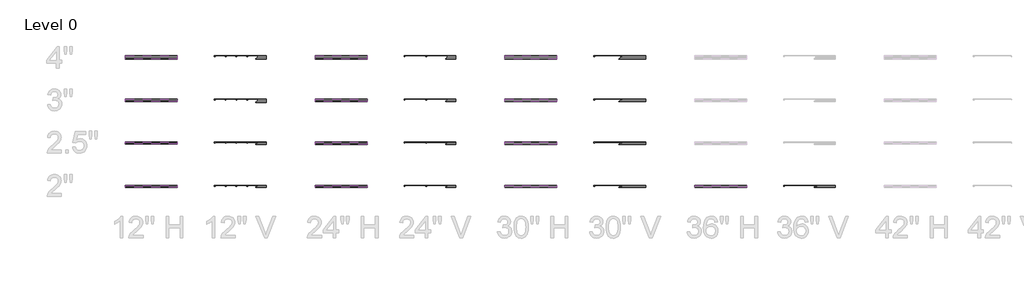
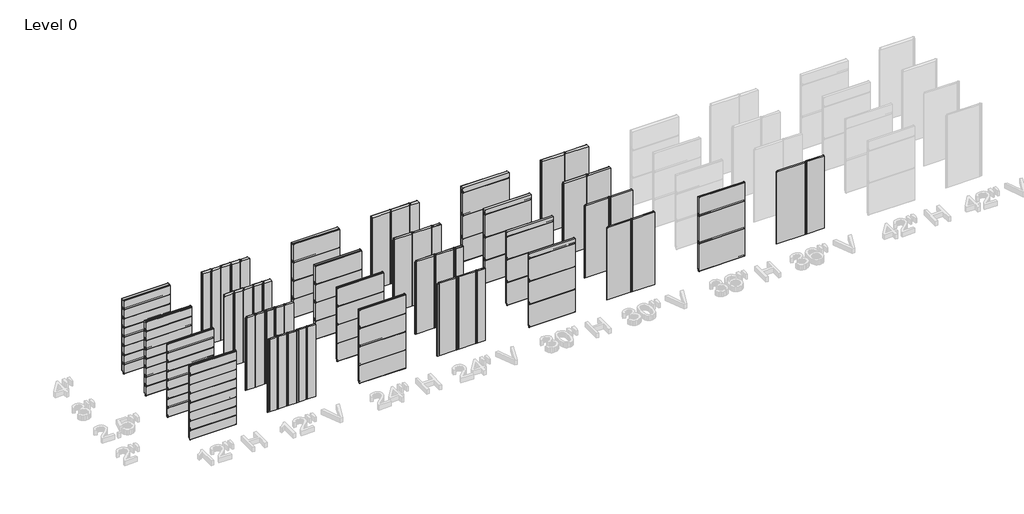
# One storey, part 1 of 5: 109 plates.
"""IFC4 building model written with IfcOpenShell, lengths in millimetres."""

from ifc_helpers import new_model, si_unit, origin, place, context, project, spatial, transform, mapped, element, save
from components import plate_d5d736a9, plate_89e84f46, plate_e7262bf4, plate_4092c8f2, plate_7f3252d8, plate_fb6e7e47, plate_fc1f2779, plate_1d96f5e6, plate_dc62b988, plate_3ba889b1, plate_b7dfedd1, plate_15d6752c, plate_9c47cac3, plate_63ff22c1, plate_e3d8686c, plate_0189f967, plate_9adf70af, plate_6caacb33, plate_a111290b, plate_7c34b83b, plate_9c1a4f24, plate_54af91b3, plate_a1647500, plate_f60e9f4d, plate_f37d1252, plate_03ad6f04, plate_646a44a0, plate_38ba23fe, plate_82fcdb9b, plate_b0db7024, plate_3a0255f0, plate_8e6019d6, plate_0934c7cf, plate_bc00b1ae, plate_81533cbf, plate_93284a91, plate_267bbc77, plate_3ce9a7e6, plate_bbc6cc8b, plate_a0bbc088, plate_d223b39a, plate_240653d1, plate_f41fd1ef, plate_e6b5dcf6, plate_e335b826, plate_40312dbb, plate_b093a8a8, plate_925c1c1f

model = new_model("IFC4")

# Units and contexts
model_context = context("Model", 3, world=origin())
ifc_project = project(units=[si_unit("LENGTHUNIT", "METRE", prefix="MILLI")], contexts=[model_context])

# Site, building, storey
site = spatial("IfcSite", under=ifc_project)
building = spatial("IfcBuilding", under=site)
storey = spatial("IfcBuildingStorey", under=building, Name="Level 0", Elevation=0.0)

# Plates
placement = place(None, origin())
plate_shape = plate_d5d736a9(model_context)
element("IfcPlate", 1, ObjectType="KIP-36-DWTR-R19-CP-Hz-F : Hz 2\"", at=placement, inside=storey, context=model_context, shape_type="MappedRepresentation", body=[
    mapped(plate_shape, transform((-13782.7250935, 10881.8207172, 0.0), x_axis=(1.0, 0.0, 0.0), y_axis=(0.0, 1.0, 0.0), z_axis=(0.0, 0.0, 1.0))),
])
element("IfcPlate", 2, ObjectType="KIP-36-DWTR-R19-CP-Hz-F : Hz 2\"", at=placement, inside=storey, context=model_context, shape_type="MappedRepresentation", body=[
    mapped(plate_shape, transform((-13782.7250935, 10881.8207172, 914.4), x_axis=(1.0, 0.0, 0.0), y_axis=(0.0, 1.0, 0.0), z_axis=(0.0, 0.0, 1.0))),
])
plate_2_shape = plate_89e84f46(model_context)
element("IfcPlate", 3, ObjectType="KIP-36-DWTR-R19-CP-Hz-F : Hz 2\"", at=placement, inside=storey, context=model_context, shape_type="MappedRepresentation", body=[
    mapped(plate_2_shape, transform((-13782.7250935, 10881.8207172, 1828.8), x_axis=(1.0, 0.0, 0.0), y_axis=(0.0, 1.0, 0.0), z_axis=(0.0, 0.0, 1.0))),
])
plate_3_shape = plate_e7262bf4(model_context)
element("IfcPlate", 4, ObjectType="KIP-30-DWTR-R19-CP-Hz-F : Hz 2\"", at=placement, inside=storey, context=model_context, shape_type="MappedRepresentation", body=[
    mapped(plate_3_shape, transform((-19116.7250935, 10881.8207172, 0.0), x_axis=(1.0, 0.0, 0.0), y_axis=(0.0, 1.0, 0.0), z_axis=(0.0, 0.0, 1.0))),
])
element("IfcPlate", 5, ObjectType="KIP-30-DWTR-R19-CP-Hz-F : Hz 2\"", at=placement, inside=storey, context=model_context, shape_type="MappedRepresentation", body=[
    mapped(plate_3_shape, transform((-19116.7250935, 10881.8207172, 762.0), x_axis=(1.0, 0.0, 0.0), y_axis=(0.0, 1.0, 0.0), z_axis=(0.0, 0.0, 1.0))),
])
element("IfcPlate", 6, ObjectType="KIP-30-DWTR-R19-CP-Hz-F : Hz 2\"", at=placement, inside=storey, context=model_context, shape_type="MappedRepresentation", body=[
    mapped(plate_3_shape, transform((-19116.7250935, 10881.8207172, 1524.0), x_axis=(1.0, 0.0, 0.0), y_axis=(0.0, 1.0, 0.0), z_axis=(0.0, 0.0, 1.0))),
])
plate_4_shape = plate_4092c8f2(model_context)
element("IfcPlate", 7, ObjectType="KIP-30-DWTR-R19-CP-Hz-F : Hz 2\"", at=placement, inside=storey, context=model_context, shape_type="MappedRepresentation", body=[
    mapped(plate_4_shape, transform((-19116.7250935, 10881.8207172, 2286.0), x_axis=(1.0, 0.0, 0.0), y_axis=(0.0, 1.0, 0.0), z_axis=(0.0, 0.0, 1.0))),
])
plate_5_shape = plate_7f3252d8(model_context)
element("IfcPlate", 8, ObjectType="KIP-24-DWTR-R19-CP-Hz-F : Hz 2\"", at=placement, inside=storey, context=model_context, shape_type="MappedRepresentation", body=[
    mapped(plate_5_shape, transform((-24450.7250935, 10881.8207172, 0.0), x_axis=(1.0, 0.0, 0.0), y_axis=(0.0, 1.0, 0.0), z_axis=(0.0, 0.0, 1.0))),
])
element("IfcPlate", 9, ObjectType="KIP-24-DWTR-R19-CP-Hz-F : Hz 2\"", at=placement, inside=storey, context=model_context, shape_type="MappedRepresentation", body=[
    mapped(plate_5_shape, transform((-24450.7250935, 10881.8207172, 609.6), x_axis=(1.0, 0.0, 0.0), y_axis=(0.0, 1.0, 0.0), z_axis=(0.0, 0.0, 1.0))),
])
element("IfcPlate", 10, ObjectType="KIP-24-DWTR-R19-CP-Hz-F : Hz 2\"", at=placement, inside=storey, context=model_context, shape_type="MappedRepresentation", body=[
    mapped(plate_5_shape, transform((-24450.7250935, 10881.8207172, 1219.2), x_axis=(1.0, 0.0, 0.0), y_axis=(0.0, 1.0, 0.0), z_axis=(0.0, 0.0, 1.0))),
])
plate_6_shape = plate_fb6e7e47(model_context)
element("IfcPlate", 11, ObjectType="KIP-24-DWTR-R19-CP-Hz-F : Hz 2\"", at=placement, inside=storey, context=model_context, shape_type="MappedRepresentation", body=[
    mapped(plate_6_shape, transform((-24450.7250935, 10881.8207172, 1828.8), x_axis=(1.0, 0.0, 0.0), y_axis=(0.0, 1.0, 0.0), z_axis=(0.0, 0.0, 1.0))),
])
plate_7_shape = plate_fc1f2779(model_context)
element("IfcPlate", 12, ObjectType="KIP-12-DWTR-R19-CP-Hz-F : Hz 2\"", at=placement, inside=storey, context=model_context, shape_type="MappedRepresentation", body=[
    mapped(plate_7_shape, transform((-29784.7250935, 10881.8207172, 0.0), x_axis=(1.0, 0.0, 0.0), y_axis=(0.0, 1.0, 0.0), z_axis=(0.0, 0.0, 1.0))),
])
element("IfcPlate", 13, ObjectType="KIP-12-DWTR-R19-CP-Hz-F : Hz 2\"", at=placement, inside=storey, context=model_context, shape_type="MappedRepresentation", body=[
    mapped(plate_7_shape, transform((-29784.7250935, 10881.8207172, 304.8), x_axis=(1.0, 0.0, 0.0), y_axis=(0.0, 1.0, 0.0), z_axis=(0.0, 0.0, 1.0))),
])
element("IfcPlate", 14, ObjectType="KIP-12-DWTR-R19-CP-Hz-F : Hz 2\"", at=placement, inside=storey, context=model_context, shape_type="MappedRepresentation", body=[
    mapped(plate_7_shape, transform((-29784.7250935, 10881.8207172, 609.6), x_axis=(1.0, 0.0, 0.0), y_axis=(0.0, 1.0, 0.0), z_axis=(0.0, 0.0, 1.0))),
])
element("IfcPlate", 15, ObjectType="KIP-12-DWTR-R19-CP-Hz-F : Hz 2\"", at=placement, inside=storey, context=model_context, shape_type="MappedRepresentation", body=[
    mapped(plate_7_shape, transform((-29784.7250935, 10881.8207172, 914.4), x_axis=(1.0, 0.0, 0.0), y_axis=(0.0, 1.0, 0.0), z_axis=(0.0, 0.0, 1.0))),
])
element("IfcPlate", 16, ObjectType="KIP-12-DWTR-R19-CP-Hz-F : Hz 2\"", at=placement, inside=storey, context=model_context, shape_type="MappedRepresentation", body=[
    mapped(plate_7_shape, transform((-29784.7250935, 10881.8207172, 1219.2), x_axis=(1.0, 0.0, 0.0), y_axis=(0.0, 1.0, 0.0), z_axis=(0.0, 0.0, 1.0))),
])
element("IfcPlate", 17, ObjectType="KIP-12-DWTR-R19-CP-Hz-F : Hz 2\"", at=placement, inside=storey, context=model_context, shape_type="MappedRepresentation", body=[
    mapped(plate_7_shape, transform((-29784.7250935, 10881.8207172, 1524.0), x_axis=(1.0, 0.0, 0.0), y_axis=(0.0, 1.0, 0.0), z_axis=(0.0, 0.0, 1.0))),
])
element("IfcPlate", 18, ObjectType="KIP-12-DWTR-R19-CP-Hz-F : Hz 2\"", at=placement, inside=storey, context=model_context, shape_type="MappedRepresentation", body=[
    mapped(plate_7_shape, transform((-29784.7250935, 10881.8207172, 1828.8), x_axis=(1.0, 0.0, 0.0), y_axis=(0.0, 1.0, 0.0), z_axis=(0.0, 0.0, 1.0))),
])
plate_8_shape = plate_1d96f5e6(model_context)
element("IfcPlate", 19, ObjectType="KIP-12-DWTR-R19-CP-Hz-F : Hz 2\"", at=placement, inside=storey, context=model_context, shape_type="MappedRepresentation", body=[
    mapped(plate_8_shape, transform((-29784.7250935, 10881.8207172, 2133.6), x_axis=(1.0, 0.0, 0.0), y_axis=(0.0, 1.0, 0.0), z_axis=(0.0, 0.0, 1.0))),
])
plate_9_shape = plate_dc62b988(model_context)
element("IfcPlate", 20, ObjectType="KIP-30-DWTR-R19-CP-Hz-F : Hz 2.5\"", at=placement, inside=storey, context=model_context, shape_type="MappedRepresentation", body=[
    mapped(plate_9_shape, transform((-19116.7250935, 12101.0207172, 0.0), x_axis=(1.0, 0.0, 0.0), y_axis=(0.0, 1.0, 0.0), z_axis=(0.0, 0.0, 1.0))),
])
element("IfcPlate", 21, ObjectType="KIP-30-DWTR-R19-CP-Hz-F : Hz 2.5\"", at=placement, inside=storey, context=model_context, shape_type="MappedRepresentation", body=[
    mapped(plate_9_shape, transform((-19116.7250935, 12101.0207172, 762.0), x_axis=(1.0, 0.0, 0.0), y_axis=(0.0, 1.0, 0.0), z_axis=(0.0, 0.0, 1.0))),
])
element("IfcPlate", 22, ObjectType="KIP-30-DWTR-R19-CP-Hz-F : Hz 2.5\"", at=placement, inside=storey, context=model_context, shape_type="MappedRepresentation", body=[
    mapped(plate_9_shape, transform((-19116.7250935, 12101.0207172, 1524.0), x_axis=(1.0, 0.0, 0.0), y_axis=(0.0, 1.0, 0.0), z_axis=(0.0, 0.0, 1.0))),
])
plate_10_shape = plate_3ba889b1(model_context)
element("IfcPlate", 23, ObjectType="KIP-30-DWTR-R19-CP-Hz-F : Hz 2.5\"", at=placement, inside=storey, context=model_context, shape_type="MappedRepresentation", body=[
    mapped(plate_10_shape, transform((-19116.7250935, 12101.0207172, 2286.0), x_axis=(1.0, 0.0, 0.0), y_axis=(0.0, 1.0, 0.0), z_axis=(0.0, 0.0, 1.0))),
])
plate_11_shape = plate_b7dfedd1(model_context)
element("IfcPlate", 24, ObjectType="KIP-24-DWTR-R19-CP-Hz-F : Hz 2.5\"", at=placement, inside=storey, context=model_context, shape_type="MappedRepresentation", body=[
    mapped(plate_11_shape, transform((-24450.7250935, 12101.0207172, 0.0), x_axis=(1.0, 0.0, 0.0), y_axis=(0.0, 1.0, 0.0), z_axis=(0.0, 0.0, 1.0))),
])
element("IfcPlate", 25, ObjectType="KIP-24-DWTR-R19-CP-Hz-F : Hz 2.5\"", at=placement, inside=storey, context=model_context, shape_type="MappedRepresentation", body=[
    mapped(plate_11_shape, transform((-24450.7250935, 12101.0207172, 609.6), x_axis=(1.0, 0.0, 0.0), y_axis=(0.0, 1.0, 0.0), z_axis=(0.0, 0.0, 1.0))),
])
element("IfcPlate", 26, ObjectType="KIP-24-DWTR-R19-CP-Hz-F : Hz 2.5\"", at=placement, inside=storey, context=model_context, shape_type="MappedRepresentation", body=[
    mapped(plate_11_shape, transform((-24450.7250935, 12101.0207172, 1219.2), x_axis=(1.0, 0.0, 0.0), y_axis=(0.0, 1.0, 0.0), z_axis=(0.0, 0.0, 1.0))),
])
plate_12_shape = plate_15d6752c(model_context)
element("IfcPlate", 27, ObjectType="KIP-24-DWTR-R19-CP-Hz-F : Hz 2.5\"", at=placement, inside=storey, context=model_context, shape_type="MappedRepresentation", body=[
    mapped(plate_12_shape, transform((-24450.7250935, 12101.0207172, 1828.8), x_axis=(1.0, 0.0, 0.0), y_axis=(0.0, 1.0, 0.0), z_axis=(0.0, 0.0, 1.0))),
])
element("IfcPlate", 28, ObjectType="KIP-12-DWTR-R19-CP-Hz-F : Hz 2.5\"", at=placement, inside=storey, context=model_context, shape_type="MappedRepresentation", body=[
    mapped(plate_7_shape, transform((-29784.7250935, 12101.0207172, 0.0), x_axis=(1.0, 0.0, 0.0), y_axis=(0.0, 1.0, 0.0), z_axis=(0.0, 0.0, 1.0))),
])
element("IfcPlate", 29, ObjectType="KIP-12-DWTR-R19-CP-Hz-F : Hz 2.5\"", at=placement, inside=storey, context=model_context, shape_type="MappedRepresentation", body=[
    mapped(plate_7_shape, transform((-29784.7250935, 12101.0207172, 304.8), x_axis=(1.0, 0.0, 0.0), y_axis=(0.0, 1.0, 0.0), z_axis=(0.0, 0.0, 1.0))),
])
element("IfcPlate", 30, ObjectType="KIP-12-DWTR-R19-CP-Hz-F : Hz 2.5\"", at=placement, inside=storey, context=model_context, shape_type="MappedRepresentation", body=[
    mapped(plate_7_shape, transform((-29784.7250935, 12101.0207172, 609.6), x_axis=(1.0, 0.0, 0.0), y_axis=(0.0, 1.0, 0.0), z_axis=(0.0, 0.0, 1.0))),
])
element("IfcPlate", 31, ObjectType="KIP-12-DWTR-R19-CP-Hz-F : Hz 2.5\"", at=placement, inside=storey, context=model_context, shape_type="MappedRepresentation", body=[
    mapped(plate_7_shape, transform((-29784.7250935, 12101.0207172, 914.4), x_axis=(1.0, 0.0, 0.0), y_axis=(0.0, 1.0, 0.0), z_axis=(0.0, 0.0, 1.0))),
])
element("IfcPlate", 32, ObjectType="KIP-12-DWTR-R19-CP-Hz-F : Hz 2.5\"", at=placement, inside=storey, context=model_context, shape_type="MappedRepresentation", body=[
    mapped(plate_7_shape, transform((-29784.7250935, 12101.0207172, 1219.2), x_axis=(1.0, 0.0, 0.0), y_axis=(0.0, 1.0, 0.0), z_axis=(0.0, 0.0, 1.0))),
])
element("IfcPlate", 33, ObjectType="KIP-12-DWTR-R19-CP-Hz-F : Hz 2.5\"", at=placement, inside=storey, context=model_context, shape_type="MappedRepresentation", body=[
    mapped(plate_7_shape, transform((-29784.7250935, 12101.0207172, 1524.0), x_axis=(1.0, 0.0, 0.0), y_axis=(0.0, 1.0, 0.0), z_axis=(0.0, 0.0, 1.0))),
])
element("IfcPlate", 34, ObjectType="KIP-12-DWTR-R19-CP-Hz-F : Hz 2.5\"", at=placement, inside=storey, context=model_context, shape_type="MappedRepresentation", body=[
    mapped(plate_7_shape, transform((-29784.7250935, 12101.0207172, 1828.8), x_axis=(1.0, 0.0, 0.0), y_axis=(0.0, 1.0, 0.0), z_axis=(0.0, 0.0, 1.0))),
])
element("IfcPlate", 35, ObjectType="KIP-12-DWTR-R19-CP-Hz-F : Hz 2.5\"", at=placement, inside=storey, context=model_context, shape_type="MappedRepresentation", body=[
    mapped(plate_8_shape, transform((-29784.7250935, 12101.0207172, 2133.6), x_axis=(1.0, 0.0, 0.0), y_axis=(0.0, 1.0, 0.0), z_axis=(0.0, 0.0, 1.0))),
])
plate_13_shape = plate_9c47cac3(model_context)
element("IfcPlate", 36, ObjectType="KIP-30-DWTR-R19-CP-Hz-F : Hz 3\"", at=placement, inside=storey, context=model_context, shape_type="MappedRepresentation", body=[
    mapped(plate_13_shape, transform((-19116.7250935, 13320.2207172, 0.0), x_axis=(1.0, 0.0, 0.0), y_axis=(0.0, 1.0, 0.0), z_axis=(0.0, 0.0, 1.0))),
])
element("IfcPlate", 37, ObjectType="KIP-30-DWTR-R19-CP-Hz-F : Hz 3\"", at=placement, inside=storey, context=model_context, shape_type="MappedRepresentation", body=[
    mapped(plate_13_shape, transform((-19116.7250935, 13320.2207172, 762.0), x_axis=(1.0, 0.0, 0.0), y_axis=(0.0, 1.0, 0.0), z_axis=(0.0, 0.0, 1.0))),
])
element("IfcPlate", 38, ObjectType="KIP-30-DWTR-R19-CP-Hz-F : Hz 3\"", at=placement, inside=storey, context=model_context, shape_type="MappedRepresentation", body=[
    mapped(plate_13_shape, transform((-19116.7250935, 13320.2207172, 1524.0), x_axis=(1.0, 0.0, 0.0), y_axis=(0.0, 1.0, 0.0), z_axis=(0.0, 0.0, 1.0))),
])
plate_14_shape = plate_63ff22c1(model_context)
element("IfcPlate", 39, ObjectType="KIP-30-DWTR-R19-CP-Hz-F : Hz 3\"", at=placement, inside=storey, context=model_context, shape_type="MappedRepresentation", body=[
    mapped(plate_14_shape, transform((-19116.7250935, 13320.2207172, 2286.0), x_axis=(1.0, 0.0, 0.0), y_axis=(0.0, 1.0, 0.0), z_axis=(0.0, 0.0, 1.0))),
])
plate_15_shape = plate_e3d8686c(model_context)
element("IfcPlate", 40, ObjectType="KIP-24-DWTR-R19-CP-Hz-F : Hz 3\"", at=placement, inside=storey, context=model_context, shape_type="MappedRepresentation", body=[
    mapped(plate_15_shape, transform((-24450.7250935, 13320.2207172, 0.0), x_axis=(1.0, 0.0, 0.0), y_axis=(0.0, 1.0, 0.0), z_axis=(0.0, 0.0, 1.0))),
])
element("IfcPlate", 41, ObjectType="KIP-24-DWTR-R19-CP-Hz-F : Hz 3\"", at=placement, inside=storey, context=model_context, shape_type="MappedRepresentation", body=[
    mapped(plate_15_shape, transform((-24450.7250935, 13320.2207172, 609.6), x_axis=(1.0, 0.0, 0.0), y_axis=(0.0, 1.0, 0.0), z_axis=(0.0, 0.0, 1.0))),
])
element("IfcPlate", 42, ObjectType="KIP-24-DWTR-R19-CP-Hz-F : Hz 3\"", at=placement, inside=storey, context=model_context, shape_type="MappedRepresentation", body=[
    mapped(plate_15_shape, transform((-24450.7250935, 13320.2207172, 1219.2), x_axis=(1.0, 0.0, 0.0), y_axis=(0.0, 1.0, 0.0), z_axis=(0.0, 0.0, 1.0))),
])
plate_16_shape = plate_0189f967(model_context)
element("IfcPlate", 43, ObjectType="KIP-24-DWTR-R19-CP-Hz-F : Hz 3\"", at=placement, inside=storey, context=model_context, shape_type="MappedRepresentation", body=[
    mapped(plate_16_shape, transform((-24450.7250935, 13320.2207172, 1828.8), x_axis=(1.0, 0.0, 0.0), y_axis=(0.0, 1.0, 0.0), z_axis=(0.0, 0.0, 1.0))),
])
plate_17_shape = plate_9adf70af(model_context)
element("IfcPlate", 44, ObjectType="KIP-12-DWTR-R19-CP-Hz-F : Hz 3\"", at=placement, inside=storey, context=model_context, shape_type="MappedRepresentation", body=[
    mapped(plate_17_shape, transform((-29784.7250935, 13320.2207172, 0.0), x_axis=(1.0, 0.0, 0.0), y_axis=(0.0, 1.0, 0.0), z_axis=(0.0, 0.0, 1.0))),
])
element("IfcPlate", 45, ObjectType="KIP-12-DWTR-R19-CP-Hz-F : Hz 3\"", at=placement, inside=storey, context=model_context, shape_type="MappedRepresentation", body=[
    mapped(plate_17_shape, transform((-29784.7250935, 13320.2207172, 304.8), x_axis=(1.0, 0.0, 0.0), y_axis=(0.0, 1.0, 0.0), z_axis=(0.0, 0.0, 1.0))),
])
element("IfcPlate", 46, ObjectType="KIP-12-DWTR-R19-CP-Hz-F : Hz 3\"", at=placement, inside=storey, context=model_context, shape_type="MappedRepresentation", body=[
    mapped(plate_17_shape, transform((-29784.7250935, 13320.2207172, 609.6), x_axis=(1.0, 0.0, 0.0), y_axis=(0.0, 1.0, 0.0), z_axis=(0.0, 0.0, 1.0))),
])
element("IfcPlate", 47, ObjectType="KIP-12-DWTR-R19-CP-Hz-F : Hz 3\"", at=placement, inside=storey, context=model_context, shape_type="MappedRepresentation", body=[
    mapped(plate_17_shape, transform((-29784.7250935, 13320.2207172, 914.4), x_axis=(1.0, 0.0, 0.0), y_axis=(0.0, 1.0, 0.0), z_axis=(0.0, 0.0, 1.0))),
])
element("IfcPlate", 48, ObjectType="KIP-12-DWTR-R19-CP-Hz-F : Hz 3\"", at=placement, inside=storey, context=model_context, shape_type="MappedRepresentation", body=[
    mapped(plate_17_shape, transform((-29784.7250935, 13320.2207172, 1219.2), x_axis=(1.0, 0.0, 0.0), y_axis=(0.0, 1.0, 0.0), z_axis=(0.0, 0.0, 1.0))),
])
element("IfcPlate", 49, ObjectType="KIP-12-DWTR-R19-CP-Hz-F : Hz 3\"", at=placement, inside=storey, context=model_context, shape_type="MappedRepresentation", body=[
    mapped(plate_17_shape, transform((-29784.7250935, 13320.2207172, 1524.0), x_axis=(1.0, 0.0, 0.0), y_axis=(0.0, 1.0, 0.0), z_axis=(0.0, 0.0, 1.0))),
])
element("IfcPlate", 50, ObjectType="KIP-12-DWTR-R19-CP-Hz-F : Hz 3\"", at=placement, inside=storey, context=model_context, shape_type="MappedRepresentation", body=[
    mapped(plate_17_shape, transform((-29784.7250935, 13320.2207172, 1828.8), x_axis=(1.0, 0.0, 0.0), y_axis=(0.0, 1.0, 0.0), z_axis=(0.0, 0.0, 1.0))),
])
plate_18_shape = plate_6caacb33(model_context)
element("IfcPlate", 51, ObjectType="KIP-12-DWTR-R19-CP-Hz-F : Hz 3\"", at=placement, inside=storey, context=model_context, shape_type="MappedRepresentation", body=[
    mapped(plate_18_shape, transform((-29784.7250935, 13320.2207172, 2133.6), x_axis=(1.0, 0.0, 0.0), y_axis=(0.0, 1.0, 0.0), z_axis=(0.0, 0.0, 1.0))),
])
plate_19_shape = plate_a111290b(model_context)
element("IfcPlate", 52, ObjectType="KIP-30-DWTR-R19-CP-Hz-F : Hz 4\"", at=placement, inside=storey, context=model_context, shape_type="MappedRepresentation", body=[
    mapped(plate_19_shape, transform((-19116.7250935, 14539.4207172, 0.0), x_axis=(1.0, 0.0, 0.0), y_axis=(0.0, 1.0, 0.0), z_axis=(0.0, 0.0, 1.0))),
])
element("IfcPlate", 53, ObjectType="KIP-30-DWTR-R19-CP-Hz-F : Hz 4\"", at=placement, inside=storey, context=model_context, shape_type="MappedRepresentation", body=[
    mapped(plate_19_shape, transform((-19116.7250935, 14539.4207172, 762.0), x_axis=(1.0, 0.0, 0.0), y_axis=(0.0, 1.0, 0.0), z_axis=(0.0, 0.0, 1.0))),
])
element("IfcPlate", 54, ObjectType="KIP-30-DWTR-R19-CP-Hz-F : Hz 4\"", at=placement, inside=storey, context=model_context, shape_type="MappedRepresentation", body=[
    mapped(plate_19_shape, transform((-19116.7250935, 14539.4207172, 1524.0), x_axis=(1.0, 0.0, 0.0), y_axis=(0.0, 1.0, 0.0), z_axis=(0.0, 0.0, 1.0))),
])
plate_20_shape = plate_7c34b83b(model_context)
element("IfcPlate", 55, ObjectType="KIP-30-DWTR-R19-CP-Hz-F : Hz 4\"", at=placement, inside=storey, context=model_context, shape_type="MappedRepresentation", body=[
    mapped(plate_20_shape, transform((-19116.7250935, 14539.4207172, 2286.0), x_axis=(1.0, 0.0, 0.0), y_axis=(0.0, 1.0, 0.0), z_axis=(0.0, 0.0, 1.0))),
])
plate_21_shape = plate_9c1a4f24(model_context)
element("IfcPlate", 56, ObjectType="KIP-24-DWTR-R19-CP-Hz-F : Hz 4\"", at=placement, inside=storey, context=model_context, shape_type="MappedRepresentation", body=[
    mapped(plate_21_shape, transform((-24450.7250935, 14539.4207172, 0.0), x_axis=(1.0, 0.0, 0.0), y_axis=(0.0, 1.0, 0.0), z_axis=(0.0, 0.0, 1.0))),
])
element("IfcPlate", 57, ObjectType="KIP-24-DWTR-R19-CP-Hz-F : Hz 4\"", at=placement, inside=storey, context=model_context, shape_type="MappedRepresentation", body=[
    mapped(plate_21_shape, transform((-24450.7250935, 14539.4207172, 609.6), x_axis=(1.0, 0.0, 0.0), y_axis=(0.0, 1.0, 0.0), z_axis=(0.0, 0.0, 1.0))),
])
element("IfcPlate", 58, ObjectType="KIP-24-DWTR-R19-CP-Hz-F : Hz 4\"", at=placement, inside=storey, context=model_context, shape_type="MappedRepresentation", body=[
    mapped(plate_21_shape, transform((-24450.7250935, 14539.4207172, 1219.2), x_axis=(1.0, 0.0, 0.0), y_axis=(0.0, 1.0, 0.0), z_axis=(0.0, 0.0, 1.0))),
])
plate_22_shape = plate_54af91b3(model_context)
element("IfcPlate", 59, ObjectType="KIP-24-DWTR-R19-CP-Hz-F : Hz 4\"", at=placement, inside=storey, context=model_context, shape_type="MappedRepresentation", body=[
    mapped(plate_22_shape, transform((-24450.7250935, 14539.4207172, 1828.8), x_axis=(1.0, 0.0, 0.0), y_axis=(0.0, 1.0, 0.0), z_axis=(0.0, 0.0, 1.0))),
])
plate_23_shape = plate_a1647500(model_context)
element("IfcPlate", 60, ObjectType="KIP-12-DWTR-R19-CP-Hz-F : Hz 4\"", at=placement, inside=storey, context=model_context, shape_type="MappedRepresentation", body=[
    mapped(plate_23_shape, transform((-29784.7250935, 14539.4207172, 0.0), x_axis=(1.0, 0.0, 0.0), y_axis=(0.0, 1.0, 0.0), z_axis=(0.0, 0.0, 1.0))),
])
element("IfcPlate", 61, ObjectType="KIP-12-DWTR-R19-CP-Hz-F : Hz 4\"", at=placement, inside=storey, context=model_context, shape_type="MappedRepresentation", body=[
    mapped(plate_23_shape, transform((-29784.7250935, 14539.4207172, 304.8), x_axis=(1.0, 0.0, 0.0), y_axis=(0.0, 1.0, 0.0), z_axis=(0.0, 0.0, 1.0))),
])
element("IfcPlate", 62, ObjectType="KIP-12-DWTR-R19-CP-Hz-F : Hz 4\"", at=placement, inside=storey, context=model_context, shape_type="MappedRepresentation", body=[
    mapped(plate_23_shape, transform((-29784.7250935, 14539.4207172, 609.6), x_axis=(1.0, 0.0, 0.0), y_axis=(0.0, 1.0, 0.0), z_axis=(0.0, 0.0, 1.0))),
])
element("IfcPlate", 63, ObjectType="KIP-12-DWTR-R19-CP-Hz-F : Hz 4\"", at=placement, inside=storey, context=model_context, shape_type="MappedRepresentation", body=[
    mapped(plate_23_shape, transform((-29784.7250935, 14539.4207172, 914.4), x_axis=(1.0, 0.0, 0.0), y_axis=(0.0, 1.0, 0.0), z_axis=(0.0, 0.0, 1.0))),
])
element("IfcPlate", 64, ObjectType="KIP-12-DWTR-R19-CP-Hz-F : Hz 4\"", at=placement, inside=storey, context=model_context, shape_type="MappedRepresentation", body=[
    mapped(plate_23_shape, transform((-29784.7250935, 14539.4207172, 1219.2), x_axis=(1.0, 0.0, 0.0), y_axis=(0.0, 1.0, 0.0), z_axis=(0.0, 0.0, 1.0))),
])
element("IfcPlate", 65, ObjectType="KIP-12-DWTR-R19-CP-Hz-F : Hz 4\"", at=placement, inside=storey, context=model_context, shape_type="MappedRepresentation", body=[
    mapped(plate_23_shape, transform((-29784.7250935, 14539.4207172, 1524.0), x_axis=(1.0, 0.0, 0.0), y_axis=(0.0, 1.0, 0.0), z_axis=(0.0, 0.0, 1.0))),
])
element("IfcPlate", 66, ObjectType="KIP-12-DWTR-R19-CP-Hz-F : Hz 4\"", at=placement, inside=storey, context=model_context, shape_type="MappedRepresentation", body=[
    mapped(plate_23_shape, transform((-29784.7250935, 14539.4207172, 1828.8), x_axis=(1.0, 0.0, 0.0), y_axis=(0.0, 1.0, 0.0), z_axis=(0.0, 0.0, 1.0))),
])
plate_24_shape = plate_f60e9f4d(model_context)
element("IfcPlate", 67, ObjectType="KIP-12-DWTR-R19-CP-Hz-F : Hz 4\"", at=placement, inside=storey, context=model_context, shape_type="MappedRepresentation", body=[
    mapped(plate_24_shape, transform((-29784.7250935, 14539.4207172, 2133.6), x_axis=(1.0, 0.0, 0.0), y_axis=(0.0, 1.0, 0.0), z_axis=(0.0, 0.0, 1.0))),
])
plate_25_shape = plate_f37d1252(model_context)
element("IfcPlate", 68, ObjectType="KIP-36-DWTR-R19-CP-Vt-F : Vt 2\"", at=placement, inside=storey, context=model_context, shape_type="MappedRepresentation", body=[
    mapped(plate_25_shape, transform((-11555.7413834, 10881.8207172, 0.0), x_axis=(1.0, 0.0, 0.0), y_axis=(0.0, 1.0, 0.0), z_axis=(0.0, 0.0, 1.0))),
])
plate_26_shape = plate_03ad6f04(model_context)
element("IfcPlate", 69, ObjectType="KIP-36-DWTR-R19-CP-Vt-F : Vt 2\"", at=placement, inside=storey, context=model_context, shape_type="MappedRepresentation", body=[
    mapped(plate_26_shape, transform((-10825.7413834, 10881.8207172, 0.0), x_axis=(1.0, 0.0, 0.0), y_axis=(0.0, 1.0, 0.0), z_axis=(0.0, 0.0, 1.0))),
])
plate_27_shape = plate_646a44a0(model_context)
element("IfcPlate", 70, ObjectType="KIP-30-DWTR-R19-CP-Vt-F : Vt 2\"", at=placement, inside=storey, context=model_context, shape_type="MappedRepresentation", body=[
    mapped(plate_27_shape, transform((-16965.9413834, 10881.8207172, 0.0), x_axis=(1.0, 0.0, 0.0), y_axis=(0.0, 1.0, 0.0), z_axis=(0.0, 0.0, 1.0))),
])
plate_28_shape = plate_38ba23fe(model_context)
element("IfcPlate", 71, ObjectType="KIP-30-DWTR-R19-CP-Vt-F : Vt 2\"", at=placement, inside=storey, context=model_context, shape_type="MappedRepresentation", body=[
    mapped(plate_28_shape, transform((-16235.9413834, 10881.8207172, 0.0), x_axis=(1.0, 0.0, 0.0), y_axis=(0.0, 1.0, 0.0), z_axis=(0.0, 0.0, 1.0))),
])
plate_29_shape = plate_82fcdb9b(model_context)
element("IfcPlate", 72, ObjectType="KIP-24-DWTR-R19-CP-Vt-F : Vt 2\"", at=placement, inside=storey, context=model_context, shape_type="MappedRepresentation", body=[
    mapped(plate_29_shape, transform((-22376.1413834, 10881.8207172, 0.0), x_axis=(1.0, 0.0, 0.0), y_axis=(0.0, 1.0, 0.0), z_axis=(0.0, 0.0, 1.0))),
])
element("IfcPlate", 73, ObjectType="KIP-24-DWTR-R19-CP-Vt-F : Vt 2\"", at=placement, inside=storey, context=model_context, shape_type="MappedRepresentation", body=[
    mapped(plate_29_shape, transform((-21766.5413833, 10881.8207172, 0.0), x_axis=(1.0, 0.0, 0.0), y_axis=(0.0, 1.0, 0.0), z_axis=(0.0, 0.0, 1.0))),
])
plate_30_shape = plate_b0db7024(model_context)
element("IfcPlate", 74, ObjectType="KIP-24-DWTR-R19-CP-Vt-F : Vt 2\"", at=placement, inside=storey, context=model_context, shape_type="MappedRepresentation", body=[
    mapped(plate_30_shape, transform((-21341.3413834, 10881.8207172, 0.0), x_axis=(1.0, 0.0, 0.0), y_axis=(0.0, 1.0, 0.0), z_axis=(0.0, 0.0, 1.0))),
])
plate_31_shape = plate_3a0255f0(model_context)
element("IfcPlate", 75, ObjectType="KIP-12-DWTR-R19-CP-Vt-F : Vt 2\"", at=placement, inside=storey, context=model_context, shape_type="MappedRepresentation", body=[
    mapped(plate_31_shape, transform((-27862.5413834, 10881.8207172, 0.0), x_axis=(1.0, 0.0, 0.0), y_axis=(0.0, 1.0, 0.0), z_axis=(0.0, 0.0, 1.0))),
])
element("IfcPlate", 76, ObjectType="KIP-12-DWTR-R19-CP-Vt-F : Vt 2\"", at=placement, inside=storey, context=model_context, shape_type="MappedRepresentation", body=[
    mapped(plate_31_shape, transform((-26948.1413833, 10881.8207172, 0.0), x_axis=(1.0, 0.0, 0.0), y_axis=(0.0, 1.0, 0.0), z_axis=(0.0, 0.0, 1.0))),
])
element("IfcPlate", 77, ObjectType="KIP-12-DWTR-R19-CP-Vt-F : Vt 2\"", at=placement, inside=storey, context=model_context, shape_type="MappedRepresentation", body=[
    mapped(plate_31_shape, transform((-27252.9413833, 10881.8207172, 0.0), x_axis=(1.0, 0.0, 0.0), y_axis=(0.0, 1.0, 0.0), z_axis=(0.0, 0.0, 1.0))),
])
element("IfcPlate", 78, ObjectType="KIP-12-DWTR-R19-CP-Vt-F : Vt 2\"", at=placement, inside=storey, context=model_context, shape_type="MappedRepresentation", body=[
    mapped(plate_31_shape, transform((-27557.7413833, 10881.8207172, 0.0), x_axis=(1.0, 0.0, 0.0), y_axis=(0.0, 1.0, 0.0), z_axis=(0.0, 0.0, 1.0))),
])
plate_32_shape = plate_8e6019d6(model_context)
element("IfcPlate", 79, ObjectType="KIP-12-DWTR-R19-CP-Vt-F : Vt 2\"", at=placement, inside=storey, context=model_context, shape_type="MappedRepresentation", body=[
    mapped(plate_32_shape, transform((-26675.3413834, 10881.8207172, 0.0), x_axis=(1.0, 0.0, 0.0), y_axis=(0.0, 1.0, 0.0), z_axis=(0.0, 0.0, 1.0))),
])
plate_33_shape = plate_0934c7cf(model_context)
element("IfcPlate", 80, ObjectType="KIP-30-DWTR-R19-CP-Vt-F : Vt 2.5\"", at=placement, inside=storey, context=model_context, shape_type="MappedRepresentation", body=[
    mapped(plate_33_shape, transform((-16965.9413834, 12101.0207172, 0.0), x_axis=(1.0, 0.0, 0.0), y_axis=(0.0, 1.0, 0.0), z_axis=(0.0, 0.0, 1.0))),
])
plate_34_shape = plate_bc00b1ae(model_context)
element("IfcPlate", 81, ObjectType="KIP-30-DWTR-R19-CP-Vt-F : Vt 2.5\"", at=placement, inside=storey, context=model_context, shape_type="MappedRepresentation", body=[
    mapped(plate_34_shape, transform((-16235.9413834, 12101.0207172, 0.0), x_axis=(1.0, 0.0, 0.0), y_axis=(0.0, 1.0, 0.0), z_axis=(0.0, 0.0, 1.0))),
])
plate_35_shape = plate_81533cbf(model_context)
element("IfcPlate", 82, ObjectType="KIP-24-DWTR-R19-CP-Vt-F : Vt 2.5\"", at=placement, inside=storey, context=model_context, shape_type="MappedRepresentation", body=[
    mapped(plate_35_shape, transform((-22376.1413834, 12101.0207172, 0.0), x_axis=(1.0, 0.0, 0.0), y_axis=(0.0, 1.0, 0.0), z_axis=(0.0, 0.0, 1.0))),
])
element("IfcPlate", 83, ObjectType="KIP-24-DWTR-R19-CP-Vt-F : Vt 2.5\"", at=placement, inside=storey, context=model_context, shape_type="MappedRepresentation", body=[
    mapped(plate_35_shape, transform((-21766.5413833, 12101.0207172, 0.0), x_axis=(1.0, 0.0, 0.0), y_axis=(0.0, 1.0, 0.0), z_axis=(0.0, 0.0, 1.0))),
])
plate_36_shape = plate_93284a91(model_context)
element("IfcPlate", 84, ObjectType="KIP-24-DWTR-R19-CP-Vt-F : Vt 2.5\"", at=placement, inside=storey, context=model_context, shape_type="MappedRepresentation", body=[
    mapped(plate_36_shape, transform((-21341.3413834, 12101.0207172, 0.0), x_axis=(1.0, 0.0, 0.0), y_axis=(0.0, 1.0, 0.0), z_axis=(0.0, 0.0, 1.0))),
])
plate_37_shape = plate_267bbc77(model_context)
element("IfcPlate", 85, ObjectType="KIP-12-DWTR-R19-CP-Vt-F : Vt 2.5\"", at=placement, inside=storey, context=model_context, shape_type="MappedRepresentation", body=[
    mapped(plate_37_shape, transform((-27862.5413834, 12101.0207172, 0.0), x_axis=(1.0, 0.0, 0.0), y_axis=(0.0, 1.0, 0.0), z_axis=(0.0, 0.0, 1.0))),
])
element("IfcPlate", 86, ObjectType="KIP-12-DWTR-R19-CP-Vt-F : Vt 2.5\"", at=placement, inside=storey, context=model_context, shape_type="MappedRepresentation", body=[
    mapped(plate_37_shape, transform((-26948.1413833, 12101.0207172, 0.0), x_axis=(1.0, 0.0, 0.0), y_axis=(0.0, 1.0, 0.0), z_axis=(0.0, 0.0, 1.0))),
])
element("IfcPlate", 87, ObjectType="KIP-12-DWTR-R19-CP-Vt-F : Vt 2.5\"", at=placement, inside=storey, context=model_context, shape_type="MappedRepresentation", body=[
    mapped(plate_37_shape, transform((-27252.9413833, 12101.0207172, 0.0), x_axis=(1.0, 0.0, 0.0), y_axis=(0.0, 1.0, 0.0), z_axis=(0.0, 0.0, 1.0))),
])
element("IfcPlate", 88, ObjectType="KIP-12-DWTR-R19-CP-Vt-F : Vt 2.5\"", at=placement, inside=storey, context=model_context, shape_type="MappedRepresentation", body=[
    mapped(plate_37_shape, transform((-27557.7413833, 12101.0207172, 0.0), x_axis=(1.0, 0.0, 0.0), y_axis=(0.0, 1.0, 0.0), z_axis=(0.0, 0.0, 1.0))),
])
plate_38_shape = plate_3ce9a7e6(model_context)
element("IfcPlate", 89, ObjectType="KIP-12-DWTR-R19-CP-Vt-F : Vt 2.5\"", at=placement, inside=storey, context=model_context, shape_type="MappedRepresentation", body=[
    mapped(plate_38_shape, transform((-26675.3413834, 12101.0207172, 0.0), x_axis=(1.0, 0.0, 0.0), y_axis=(0.0, 1.0, 0.0), z_axis=(0.0, 0.0, 1.0))),
])
plate_39_shape = plate_bbc6cc8b(model_context)
element("IfcPlate", 90, ObjectType="KIP-30-DWTR-R19-CP-Vt-F : Vt 3\"", at=placement, inside=storey, context=model_context, shape_type="MappedRepresentation", body=[
    mapped(plate_39_shape, transform((-16965.9413834, 13320.2207172, 0.0), x_axis=(1.0, 0.0, 0.0), y_axis=(0.0, 1.0, 0.0), z_axis=(0.0, 0.0, 1.0))),
])
plate_40_shape = plate_a0bbc088(model_context)
element("IfcPlate", 91, ObjectType="KIP-30-DWTR-R19-CP-Vt-F : Vt 3\"", at=placement, inside=storey, context=model_context, shape_type="MappedRepresentation", body=[
    mapped(plate_40_shape, transform((-16235.9413834, 13320.2207172, 0.0), x_axis=(1.0, 0.0, 0.0), y_axis=(0.0, 1.0, 0.0), z_axis=(0.0, 0.0, 1.0))),
])
plate_41_shape = plate_d223b39a(model_context)
element("IfcPlate", 92, ObjectType="KIP-24-DWTR-R19-CP-Vt-F : Vt 3\"", at=placement, inside=storey, context=model_context, shape_type="MappedRepresentation", body=[
    mapped(plate_41_shape, transform((-22376.1413834, 13320.2207172, 0.0), x_axis=(1.0, 0.0, 0.0), y_axis=(0.0, 1.0, 0.0), z_axis=(0.0, 0.0, 1.0))),
])
element("IfcPlate", 93, ObjectType="KIP-24-DWTR-R19-CP-Vt-F : Vt 3\"", at=placement, inside=storey, context=model_context, shape_type="MappedRepresentation", body=[
    mapped(plate_41_shape, transform((-21766.5413833, 13320.2207172, 0.0), x_axis=(1.0, 0.0, 0.0), y_axis=(0.0, 1.0, 0.0), z_axis=(0.0, 0.0, 1.0))),
])
plate_42_shape = plate_240653d1(model_context)
element("IfcPlate", 94, ObjectType="KIP-24-DWTR-R19-CP-Vt-F : Vt 3\"", at=placement, inside=storey, context=model_context, shape_type="MappedRepresentation", body=[
    mapped(plate_42_shape, transform((-21341.3413834, 13320.2207172, 0.0), x_axis=(1.0, 0.0, 0.0), y_axis=(0.0, 1.0, 0.0), z_axis=(0.0, 0.0, 1.0))),
])
plate_43_shape = plate_f41fd1ef(model_context)
element("IfcPlate", 95, ObjectType="KIP-12-DWTR-R19-CP-Vt-F : Vt 3\"", at=placement, inside=storey, context=model_context, shape_type="MappedRepresentation", body=[
    mapped(plate_43_shape, transform((-27862.5413834, 13320.2207172, 0.0), x_axis=(1.0, 0.0, 0.0), y_axis=(0.0, 1.0, 0.0), z_axis=(0.0, 0.0, 1.0))),
])
element("IfcPlate", 96, ObjectType="KIP-12-DWTR-R19-CP-Vt-F : Vt 3\"", at=placement, inside=storey, context=model_context, shape_type="MappedRepresentation", body=[
    mapped(plate_43_shape, transform((-26948.1413833, 13320.2207172, 0.0), x_axis=(1.0, 0.0, 0.0), y_axis=(0.0, 1.0, 0.0), z_axis=(0.0, 0.0, 1.0))),
])
element("IfcPlate", 97, ObjectType="KIP-12-DWTR-R19-CP-Vt-F : Vt 3\"", at=placement, inside=storey, context=model_context, shape_type="MappedRepresentation", body=[
    mapped(plate_43_shape, transform((-27252.9413833, 13320.2207172, 0.0), x_axis=(1.0, 0.0, 0.0), y_axis=(0.0, 1.0, 0.0), z_axis=(0.0, 0.0, 1.0))),
])
element("IfcPlate", 98, ObjectType="KIP-12-DWTR-R19-CP-Vt-F : Vt 3\"", at=placement, inside=storey, context=model_context, shape_type="MappedRepresentation", body=[
    mapped(plate_43_shape, transform((-27557.7413833, 13320.2207172, 0.0), x_axis=(1.0, 0.0, 0.0), y_axis=(0.0, 1.0, 0.0), z_axis=(0.0, 0.0, 1.0))),
])
plate_44_shape = plate_e6b5dcf6(model_context)
element("IfcPlate", 99, ObjectType="KIP-12-DWTR-R19-CP-Vt-F : Vt 3\"", at=placement, inside=storey, context=model_context, shape_type="MappedRepresentation", body=[
    mapped(plate_44_shape, transform((-26675.3413834, 13320.2207172, 0.0), x_axis=(1.0, 0.0, 0.0), y_axis=(0.0, 1.0, 0.0), z_axis=(0.0, 0.0, 1.0))),
])
plate_45_shape = plate_e335b826(model_context)
element("IfcPlate", 100, ObjectType="KIP-30-DWTR-R19-CP-Vt-F : Vt 4\"", at=placement, inside=storey, context=model_context, shape_type="MappedRepresentation", body=[
    mapped(plate_45_shape, transform((-16965.9413834, 14539.4207172, 0.0), x_axis=(1.0, 0.0, 0.0), y_axis=(0.0, 1.0, 0.0), z_axis=(0.0, 0.0, 1.0))),
])
plate_46_shape = plate_40312dbb(model_context)
element("IfcPlate", 101, ObjectType="KIP-30-DWTR-R19-CP-Vt-F : Vt 4\"", at=placement, inside=storey, context=model_context, shape_type="MappedRepresentation", body=[
    mapped(plate_46_shape, transform((-16235.9413834, 14539.4207172, 0.0), x_axis=(1.0, 0.0, 0.0), y_axis=(0.0, 1.0, 0.0), z_axis=(0.0, 0.0, 1.0))),
])
plate_47_shape = plate_b093a8a8(model_context)
element("IfcPlate", 102, ObjectType="KIP-24-DWTR-R19-CP-Vt-F : Vt 4\"", at=placement, inside=storey, context=model_context, shape_type="MappedRepresentation", body=[
    mapped(plate_47_shape, transform((-22376.1413834, 14539.4207172, 0.0), x_axis=(1.0, 0.0, 0.0), y_axis=(0.0, 1.0, 0.0), z_axis=(0.0, 0.0, 1.0))),
])
element("IfcPlate", 103, ObjectType="KIP-24-DWTR-R19-CP-Vt-F : Vt 4\"", at=placement, inside=storey, context=model_context, shape_type="MappedRepresentation", body=[
    mapped(plate_47_shape, transform((-21766.5413833, 14539.4207172, 0.0), x_axis=(1.0, 0.0, 0.0), y_axis=(0.0, 1.0, 0.0), z_axis=(0.0, 0.0, 1.0))),
])
plate_48_shape = plate_925c1c1f(model_context)
element("IfcPlate", 104, ObjectType="KIP-24-DWTR-R19-CP-Vt-F : Vt 4\"", at=placement, inside=storey, context=model_context, shape_type="MappedRepresentation", body=[
    mapped(plate_48_shape, transform((-21341.3413834, 14539.4207172, 0.0), x_axis=(1.0, 0.0, 0.0), y_axis=(0.0, 1.0, 0.0), z_axis=(0.0, 0.0, 1.0))),
])
element("IfcPlate", 105, ObjectType="KIP-12-DWTR-R19-CP-Vt-F : Vt 4\"", at=placement, inside=storey, context=model_context, shape_type="MappedRepresentation", body=[
    mapped(plate_43_shape, transform((-27862.5413834, 14539.4207172, 0.0), x_axis=(1.0, 0.0, 0.0), y_axis=(0.0, 1.0, 0.0), z_axis=(0.0, 0.0, 1.0))),
])
element("IfcPlate", 106, ObjectType="KIP-12-DWTR-R19-CP-Vt-F : Vt 4\"", at=placement, inside=storey, context=model_context, shape_type="MappedRepresentation", body=[
    mapped(plate_43_shape, transform((-26948.1413833, 14539.4207172, 0.0), x_axis=(1.0, 0.0, 0.0), y_axis=(0.0, 1.0, 0.0), z_axis=(0.0, 0.0, 1.0))),
])
element("IfcPlate", 107, ObjectType="KIP-12-DWTR-R19-CP-Vt-F : Vt 4\"", at=placement, inside=storey, context=model_context, shape_type="MappedRepresentation", body=[
    mapped(plate_43_shape, transform((-27252.9413833, 14539.4207172, 0.0), x_axis=(1.0, 0.0, 0.0), y_axis=(0.0, 1.0, 0.0), z_axis=(0.0, 0.0, 1.0))),
])
element("IfcPlate", 108, ObjectType="KIP-12-DWTR-R19-CP-Vt-F : Vt 4\"", at=placement, inside=storey, context=model_context, shape_type="MappedRepresentation", body=[
    mapped(plate_43_shape, transform((-27557.7413833, 14539.4207172, 0.0), x_axis=(1.0, 0.0, 0.0), y_axis=(0.0, 1.0, 0.0), z_axis=(0.0, 0.0, 1.0))),
])
element("IfcPlate", 109, ObjectType="KIP-12-DWTR-R19-CP-Vt-F : Vt 4\"", at=placement, inside=storey, context=model_context, shape_type="MappedRepresentation", body=[
    mapped(plate_44_shape, transform((-26675.3413834, 14539.4207172, 0.0), x_axis=(1.0, 0.0, 0.0), y_axis=(0.0, 1.0, 0.0), z_axis=(0.0, 0.0, 1.0))),
])

save(model, "model.ifc")
